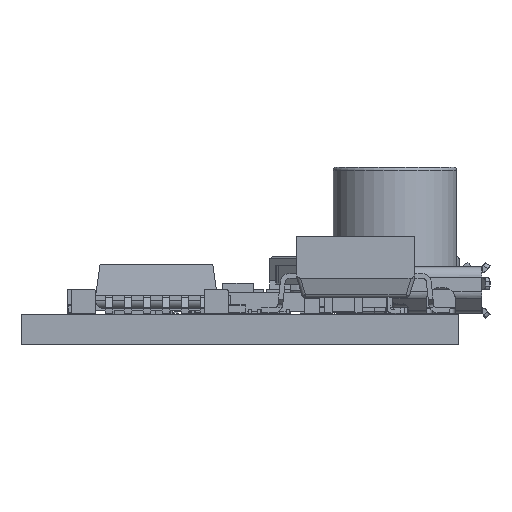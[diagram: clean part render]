
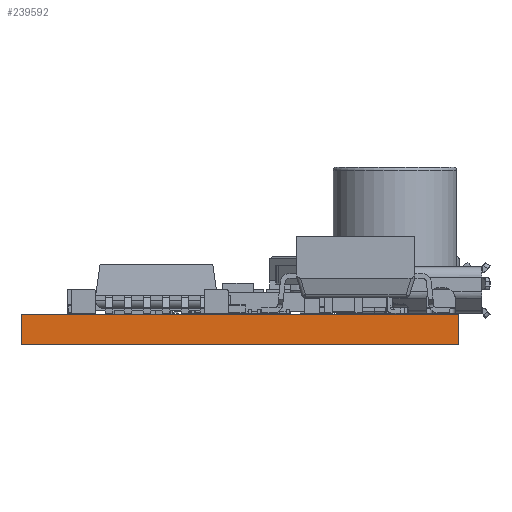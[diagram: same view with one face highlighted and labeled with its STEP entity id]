
A CAD part, left-side view. The second image highlights one B-rep face of the part: STEP entity #239592.
In plain terms, the highlighted planar face has unit normal (-1, 0, 0).
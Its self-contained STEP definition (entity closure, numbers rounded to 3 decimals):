
#239411 = PLANE('',#239412);
#239412 = AXIS2_PLACEMENT_3D('',#239413,#239414,#239415);
#239413 = CARTESIAN_POINT('',(164.5,-115.15,0.));
#239414 = DIRECTION('',(0.,-1.,0.));
#239415 = DIRECTION('',(-1.,0.,0.));
#239436 = VERTEX_POINT('',#239437);
#239437 = CARTESIAN_POINT('',(108.5,-115.15,1.6));
#239451 = PLANE('',#239452);
#239452 = AXIS2_PLACEMENT_3D('',#239453,#239454,#239455);
#239453 = CARTESIAN_POINT('',(136.5,-103.65,1.6));
#239454 = DIRECTION('',(-0.,-0.,-1.));
#239455 = DIRECTION('',(-1.,0.,0.));
#239463 = EDGE_CURVE('',#239464,#239436,#239466,.T.);
#239464 = VERTEX_POINT('',#239465);
#239465 = CARTESIAN_POINT('',(108.5,-115.15,0.));
#239466 = SURFACE_CURVE('',#239467,(#239471,#239478),.PCURVE_S1.);
#239467 = LINE('',#239468,#239469);
#239468 = CARTESIAN_POINT('',(108.5,-115.15,0.));
#239469 = VECTOR('',#239470,1.);
#239470 = DIRECTION('',(0.,0.,1.));
#239471 = PCURVE('',#239411,#239472);
#239472 = DEFINITIONAL_REPRESENTATION('',(#239473),#239477);
#239473 = LINE('',#239474,#239475);
#239474 = CARTESIAN_POINT('',(56.,0.));
#239475 = VECTOR('',#239476,1.);
#239476 = DIRECTION('',(0.,-1.));
#239477 = ( GEOMETRIC_REPRESENTATION_CONTEXT(2) 
PARAMETRIC_REPRESENTATION_CONTEXT() REPRESENTATION_CONTEXT('2D SPACE',''
  ) );
#239478 = PCURVE('',#239479,#239484);
#239479 = PLANE('',#239480);
#239480 = AXIS2_PLACEMENT_3D('',#239481,#239482,#239483);
#239481 = CARTESIAN_POINT('',(108.5,-115.15,0.));
#239482 = DIRECTION('',(-1.,0.,0.));
#239483 = DIRECTION('',(0.,1.,0.));
#239484 = DEFINITIONAL_REPRESENTATION('',(#239485),#239489);
#239485 = LINE('',#239486,#239487);
#239486 = CARTESIAN_POINT('',(0.,0.));
#239487 = VECTOR('',#239488,1.);
#239488 = DIRECTION('',(0.,-1.));
#239489 = ( GEOMETRIC_REPRESENTATION_CONTEXT(2) 
PARAMETRIC_REPRESENTATION_CONTEXT() REPRESENTATION_CONTEXT('2D SPACE',''
  ) );
#239505 = PLANE('',#239506);
#239506 = AXIS2_PLACEMENT_3D('',#239507,#239508,#239509);
#239507 = CARTESIAN_POINT('',(136.5,-103.65,0.));
#239508 = DIRECTION('',(-0.,-0.,-1.));
#239509 = DIRECTION('',(-1.,0.,0.));
#239538 = PLANE('',#239539);
#239539 = AXIS2_PLACEMENT_3D('',#239540,#239541,#239542);
#239540 = CARTESIAN_POINT('',(108.5,-92.15,0.));
#239541 = DIRECTION('',(0.,1.,0.));
#239542 = DIRECTION('',(1.,0.,0.));
#239592 = ADVANCED_FACE('',(#239593),#239479,.T.);
#239593 = FACE_BOUND('',#239594,.T.);
#239594 = EDGE_LOOP('',(#239595,#239596,#239619,#239642));
#239595 = ORIENTED_EDGE('',*,*,#239463,.T.);
#239596 = ORIENTED_EDGE('',*,*,#239597,.T.);
#239597 = EDGE_CURVE('',#239436,#239598,#239600,.T.);
#239598 = VERTEX_POINT('',#239599);
#239599 = CARTESIAN_POINT('',(108.5,-92.15,1.6));
#239600 = SURFACE_CURVE('',#239601,(#239605,#239612),.PCURVE_S1.);
#239601 = LINE('',#239602,#239603);
#239602 = CARTESIAN_POINT('',(108.5,-115.15,1.6));
#239603 = VECTOR('',#239604,1.);
#239604 = DIRECTION('',(0.,1.,0.));
#239605 = PCURVE('',#239479,#239606);
#239606 = DEFINITIONAL_REPRESENTATION('',(#239607),#239611);
#239607 = LINE('',#239608,#239609);
#239608 = CARTESIAN_POINT('',(0.,-1.6));
#239609 = VECTOR('',#239610,1.);
#239610 = DIRECTION('',(1.,0.));
#239611 = ( GEOMETRIC_REPRESENTATION_CONTEXT(2) 
PARAMETRIC_REPRESENTATION_CONTEXT() REPRESENTATION_CONTEXT('2D SPACE',''
  ) );
#239612 = PCURVE('',#239451,#239613);
#239613 = DEFINITIONAL_REPRESENTATION('',(#239614),#239618);
#239614 = LINE('',#239615,#239616);
#239615 = CARTESIAN_POINT('',(28.,-11.5));
#239616 = VECTOR('',#239617,1.);
#239617 = DIRECTION('',(0.,1.));
#239618 = ( GEOMETRIC_REPRESENTATION_CONTEXT(2) 
PARAMETRIC_REPRESENTATION_CONTEXT() REPRESENTATION_CONTEXT('2D SPACE',''
  ) );
#239619 = ORIENTED_EDGE('',*,*,#239620,.F.);
#239620 = EDGE_CURVE('',#239621,#239598,#239623,.T.);
#239621 = VERTEX_POINT('',#239622);
#239622 = CARTESIAN_POINT('',(108.5,-92.15,0.));
#239623 = SURFACE_CURVE('',#239624,(#239628,#239635),.PCURVE_S1.);
#239624 = LINE('',#239625,#239626);
#239625 = CARTESIAN_POINT('',(108.5,-92.15,0.));
#239626 = VECTOR('',#239627,1.);
#239627 = DIRECTION('',(0.,0.,1.));
#239628 = PCURVE('',#239479,#239629);
#239629 = DEFINITIONAL_REPRESENTATION('',(#239630),#239634);
#239630 = LINE('',#239631,#239632);
#239631 = CARTESIAN_POINT('',(23.,0.));
#239632 = VECTOR('',#239633,1.);
#239633 = DIRECTION('',(0.,-1.));
#239634 = ( GEOMETRIC_REPRESENTATION_CONTEXT(2) 
PARAMETRIC_REPRESENTATION_CONTEXT() REPRESENTATION_CONTEXT('2D SPACE',''
  ) );
#239635 = PCURVE('',#239538,#239636);
#239636 = DEFINITIONAL_REPRESENTATION('',(#239637),#239641);
#239637 = LINE('',#239638,#239639);
#239638 = CARTESIAN_POINT('',(0.,0.));
#239639 = VECTOR('',#239640,1.);
#239640 = DIRECTION('',(0.,-1.));
#239641 = ( GEOMETRIC_REPRESENTATION_CONTEXT(2) 
PARAMETRIC_REPRESENTATION_CONTEXT() REPRESENTATION_CONTEXT('2D SPACE',''
  ) );
#239642 = ORIENTED_EDGE('',*,*,#239643,.F.);
#239643 = EDGE_CURVE('',#239464,#239621,#239644,.T.);
#239644 = SURFACE_CURVE('',#239645,(#239649,#239656),.PCURVE_S1.);
#239645 = LINE('',#239646,#239647);
#239646 = CARTESIAN_POINT('',(108.5,-115.15,0.));
#239647 = VECTOR('',#239648,1.);
#239648 = DIRECTION('',(0.,1.,0.));
#239649 = PCURVE('',#239479,#239650);
#239650 = DEFINITIONAL_REPRESENTATION('',(#239651),#239655);
#239651 = LINE('',#239652,#239653);
#239652 = CARTESIAN_POINT('',(0.,0.));
#239653 = VECTOR('',#239654,1.);
#239654 = DIRECTION('',(1.,0.));
#239655 = ( GEOMETRIC_REPRESENTATION_CONTEXT(2) 
PARAMETRIC_REPRESENTATION_CONTEXT() REPRESENTATION_CONTEXT('2D SPACE',''
  ) );
#239656 = PCURVE('',#239505,#239657);
#239657 = DEFINITIONAL_REPRESENTATION('',(#239658),#239662);
#239658 = LINE('',#239659,#239660);
#239659 = CARTESIAN_POINT('',(28.,-11.5));
#239660 = VECTOR('',#239661,1.);
#239661 = DIRECTION('',(0.,1.));
#239662 = ( GEOMETRIC_REPRESENTATION_CONTEXT(2) 
PARAMETRIC_REPRESENTATION_CONTEXT() REPRESENTATION_CONTEXT('2D SPACE',''
  ) );
